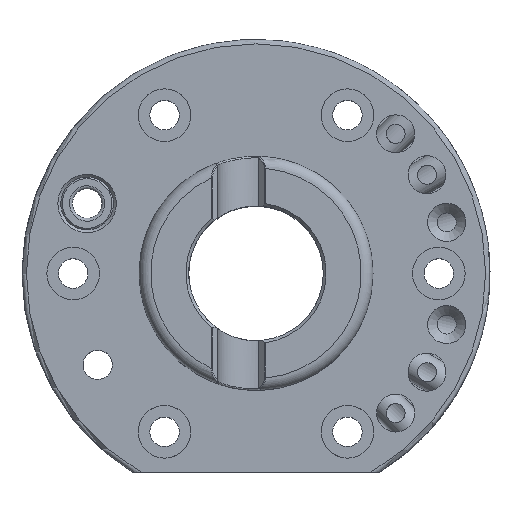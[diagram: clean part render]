
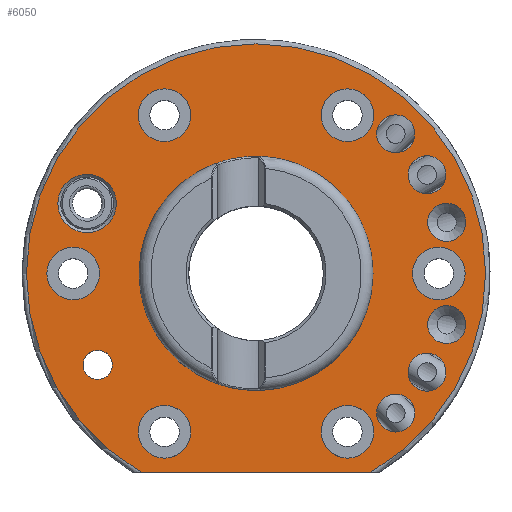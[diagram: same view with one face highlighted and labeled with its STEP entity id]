
A CAD part, top view. The second image highlights one B-rep face of the part: STEP entity #6050.
In plain terms, the highlighted planar face has unit normal (0, 0, 1).
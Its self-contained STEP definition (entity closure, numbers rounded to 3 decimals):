
#491=FACE_BOUND('',#1333,.T.);
#492=FACE_BOUND('',#1334,.T.);
#493=FACE_BOUND('',#1335,.T.);
#494=FACE_BOUND('',#1336,.T.);
#495=FACE_BOUND('',#1337,.T.);
#496=FACE_BOUND('',#1338,.T.);
#497=FACE_BOUND('',#1339,.T.);
#498=FACE_BOUND('',#1340,.T.);
#499=FACE_BOUND('',#1341,.T.);
#500=FACE_BOUND('',#1342,.T.);
#501=FACE_BOUND('',#1343,.T.);
#502=FACE_BOUND('',#1344,.T.);
#503=FACE_BOUND('',#1345,.T.);
#504=FACE_BOUND('',#1346,.T.);
#505=FACE_BOUND('',#1347,.T.);
#645=PLANE('',#6410);
#957=FACE_OUTER_BOUND('',#1332,.T.);
#1332=EDGE_LOOP('',(#5393,#5394));
#1333=EDGE_LOOP('',(#5395));
#1334=EDGE_LOOP('',(#5396));
#1335=EDGE_LOOP('',(#5397));
#1336=EDGE_LOOP('',(#5398));
#1337=EDGE_LOOP('',(#5399));
#1338=EDGE_LOOP('',(#5400));
#1339=EDGE_LOOP('',(#5401));
#1340=EDGE_LOOP('',(#5402));
#1341=EDGE_LOOP('',(#5403));
#1342=EDGE_LOOP('',(#5404));
#1343=EDGE_LOOP('',(#5405));
#1344=EDGE_LOOP('',(#5406));
#1345=EDGE_LOOP('',(#5407));
#1346=EDGE_LOOP('',(#5408));
#1347=EDGE_LOOP('',(#5409));
#1834=LINE('',#13374,#2291);
#2291=VECTOR('',#7527,10.);
#2334=CIRCLE('',#6269,78.5);
#2344=CIRCLE('',#6288,6.5);
#2349=CIRCLE('',#6299,6.5);
#2354=CIRCLE('',#6310,6.5);
#2359=CIRCLE('',#6321,6.5);
#2364=CIRCLE('',#6332,6.5);
#2368=CIRCLE('',#6341,6.5);
#2405=CIRCLE('',#6407,10.);
#2407=CIRCLE('',#6411,40.);
#2408=CIRCLE('',#6412,9.);
#2409=CIRCLE('',#6413,9.);
#2410=CIRCLE('',#6414,9.);
#2411=CIRCLE('',#6415,9.);
#2412=CIRCLE('',#6416,9.);
#2413=CIRCLE('',#6417,9.);
#2414=CIRCLE('',#6418,5.);
#2850=VERTEX_POINT('',#11414);
#2851=VERTEX_POINT('',#11427);
#2894=VERTEX_POINT('',#12851);
#2901=VERTEX_POINT('',#12911);
#2908=VERTEX_POINT('',#12971);
#2915=VERTEX_POINT('',#13031);
#2922=VERTEX_POINT('',#13091);
#2926=VERTEX_POINT('',#13107);
#2974=VERTEX_POINT('',#13366);
#2976=VERTEX_POINT('',#13375);
#2977=VERTEX_POINT('',#13377);
#2978=VERTEX_POINT('',#13379);
#2979=VERTEX_POINT('',#13381);
#2980=VERTEX_POINT('',#13383);
#2981=VERTEX_POINT('',#13385);
#2982=VERTEX_POINT('',#13387);
#2983=VERTEX_POINT('',#13389);
#3622=EDGE_CURVE('',#2850,#2851,#2334,.T.);
#3680=EDGE_CURVE('',#2894,#2894,#2344,.T.);
#3691=EDGE_CURVE('',#2901,#2901,#2349,.T.);
#3702=EDGE_CURVE('',#2908,#2908,#2354,.T.);
#3713=EDGE_CURVE('',#2915,#2915,#2359,.T.);
#3724=EDGE_CURVE('',#2922,#2922,#2364,.T.);
#3731=EDGE_CURVE('',#2926,#2926,#2368,.T.);
#3801=EDGE_CURVE('',#2974,#2974,#2405,.T.);
#3805=EDGE_CURVE('',#2850,#2851,#1834,.T.);
#3806=EDGE_CURVE('',#2976,#2976,#2407,.T.);
#3807=EDGE_CURVE('',#2977,#2977,#2408,.T.);
#3808=EDGE_CURVE('',#2978,#2978,#2409,.T.);
#3809=EDGE_CURVE('',#2979,#2979,#2410,.T.);
#3810=EDGE_CURVE('',#2980,#2980,#2411,.T.);
#3811=EDGE_CURVE('',#2981,#2981,#2412,.T.);
#3812=EDGE_CURVE('',#2982,#2982,#2413,.T.);
#3813=EDGE_CURVE('',#2983,#2983,#2414,.T.);
#5393=ORIENTED_EDGE('',*,*,#3805,.T.);
#5394=ORIENTED_EDGE('',*,*,#3622,.F.);
#5395=ORIENTED_EDGE('',*,*,#3680,.T.);
#5396=ORIENTED_EDGE('',*,*,#3691,.T.);
#5397=ORIENTED_EDGE('',*,*,#3702,.T.);
#5398=ORIENTED_EDGE('',*,*,#3713,.T.);
#5399=ORIENTED_EDGE('',*,*,#3724,.T.);
#5400=ORIENTED_EDGE('',*,*,#3731,.T.);
#5401=ORIENTED_EDGE('',*,*,#3806,.T.);
#5402=ORIENTED_EDGE('',*,*,#3807,.T.);
#5403=ORIENTED_EDGE('',*,*,#3808,.T.);
#5404=ORIENTED_EDGE('',*,*,#3809,.T.);
#5405=ORIENTED_EDGE('',*,*,#3810,.T.);
#5406=ORIENTED_EDGE('',*,*,#3811,.T.);
#5407=ORIENTED_EDGE('',*,*,#3812,.T.);
#5408=ORIENTED_EDGE('',*,*,#3813,.T.);
#5409=ORIENTED_EDGE('',*,*,#3801,.F.);
#6050=ADVANCED_FACE('',(#957,#491,#492,#493,#494,#495,#496,#497,#498,#499,
#500,#501,#502,#503,#504,#505),#645,.T.);
#6269=AXIS2_PLACEMENT_3D('',#11428,#7186,#7187);
#6288=AXIS2_PLACEMENT_3D('',#12852,#7233,#7234);
#6299=AXIS2_PLACEMENT_3D('',#12912,#7259,#7260);
#6310=AXIS2_PLACEMENT_3D('',#12972,#7285,#7286);
#6321=AXIS2_PLACEMENT_3D('',#13032,#7311,#7312);
#6332=AXIS2_PLACEMENT_3D('',#13092,#7337,#7338);
#6341=AXIS2_PLACEMENT_3D('',#13108,#7358,#7359);
#6407=AXIS2_PLACEMENT_3D('',#13367,#7517,#7518);
#6410=AXIS2_PLACEMENT_3D('',#13373,#7525,#7526);
#6411=AXIS2_PLACEMENT_3D('',#13376,#7528,#7529);
#6412=AXIS2_PLACEMENT_3D('',#13378,#7530,#7531);
#6413=AXIS2_PLACEMENT_3D('',#13380,#7532,#7533);
#6414=AXIS2_PLACEMENT_3D('',#13382,#7534,#7535);
#6415=AXIS2_PLACEMENT_3D('',#13384,#7536,#7537);
#6416=AXIS2_PLACEMENT_3D('',#13386,#7538,#7539);
#6417=AXIS2_PLACEMENT_3D('',#13388,#7540,#7541);
#6418=AXIS2_PLACEMENT_3D('',#13390,#7542,#7543);
#7186=DIRECTION('center_axis',(0.,0.,-1.));
#7187=DIRECTION('ref_axis',(1.,0.,0.));
#7233=DIRECTION('center_axis',(0.,0.,-1.));
#7234=DIRECTION('ref_axis',(0.866,0.5,0.));
#7259=DIRECTION('center_axis',(0.,0.,-1.));
#7260=DIRECTION('ref_axis',(0.966,0.259,0.));
#7285=DIRECTION('center_axis',(0.,0.,-1.));
#7286=DIRECTION('ref_axis',(1.,0.,0.));
#7311=DIRECTION('center_axis',(0.,0.,-1.));
#7312=DIRECTION('ref_axis',(0.866,-0.5,0.));
#7337=DIRECTION('center_axis',(0.,0.,-1.));
#7338=DIRECTION('ref_axis',(0.966,-0.259,0.));
#7358=DIRECTION('center_axis',(0.,0.,-1.));
#7359=DIRECTION('ref_axis',(1.,0.,0.));
#7517=DIRECTION('center_axis',(0.,0.,1.));
#7518=DIRECTION('ref_axis',(-1.,0.,0.));
#7525=DIRECTION('center_axis',(0.,0.,1.));
#7526=DIRECTION('ref_axis',(1.,0.,0.));
#7527=DIRECTION('',(1.,0.,0.));
#7528=DIRECTION('center_axis',(0.,0.,-1.));
#7529=DIRECTION('ref_axis',(1.,0.,0.));
#7530=DIRECTION('center_axis',(0.,0.,-1.));
#7531=DIRECTION('ref_axis',(1.,0.,0.));
#7532=DIRECTION('center_axis',(0.,0.,-1.));
#7533=DIRECTION('ref_axis',(0.5,0.866,0.));
#7534=DIRECTION('center_axis',(0.,0.,-1.));
#7535=DIRECTION('ref_axis',(-0.5,0.866,0.));
#7536=DIRECTION('center_axis',(0.,0.,-1.));
#7537=DIRECTION('ref_axis',(-1.,0.,0.));
#7538=DIRECTION('center_axis',(0.,0.,-1.));
#7539=DIRECTION('ref_axis',(-0.5,-0.866,0.));
#7540=DIRECTION('center_axis',(0.,0.,-1.));
#7541=DIRECTION('ref_axis',(0.5,-0.866,0.));
#7542=DIRECTION('center_axis',(0.,0.,-1.));
#7543=DIRECTION('ref_axis',(1.,0.,0.));
#11414=CARTESIAN_POINT('',(-39.221,-68.,28.));
#11427=CARTESIAN_POINT('',(39.221,-68.,28.));
#11428=CARTESIAN_POINT('Origin',(0.,0.,28.));
#12851=CARTESIAN_POINT('',(42.101,44.48,28.));
#12852=CARTESIAN_POINT('Origin',(47.73,47.73,28.));
#12911=CARTESIAN_POINT('',(52.178,32.068,28.));
#12912=CARTESIAN_POINT('Origin',(58.457,33.75,28.));
#12971=CARTESIAN_POINT('',(58.7,17.47,28.));
#12972=CARTESIAN_POINT('Origin',(65.2,17.47,28.));
#13031=CARTESIAN_POINT('',(42.101,-44.48,28.));
#13032=CARTESIAN_POINT('Origin',(47.73,-47.73,28.));
#13091=CARTESIAN_POINT('',(52.178,-32.068,28.));
#13092=CARTESIAN_POINT('Origin',(58.457,-33.75,28.));
#13107=CARTESIAN_POINT('',(58.7,-17.47,28.));
#13108=CARTESIAN_POINT('Origin',(65.2,-17.47,28.));
#13366=CARTESIAN_POINT('',(-47.742,23.918,28.));
#13367=CARTESIAN_POINT('Origin',(-57.742,23.918,28.));
#13373=CARTESIAN_POINT('Origin',(-78.5,0.,28.));
#13374=CARTESIAN_POINT('',(-60.321,-68.,28.));
#13375=CARTESIAN_POINT('',(40.,0.,28.));
#13376=CARTESIAN_POINT('Origin',(0.,0.,28.));
#13377=CARTESIAN_POINT('',(-71.5,0.,28.));
#13378=CARTESIAN_POINT('Origin',(-62.5,0.,28.));
#13379=CARTESIAN_POINT('',(-35.75,-61.921,28.));
#13380=CARTESIAN_POINT('Origin',(-31.25,-54.127,28.));
#13381=CARTESIAN_POINT('',(35.75,-61.921,28.));
#13382=CARTESIAN_POINT('Origin',(31.25,-54.127,28.));
#13383=CARTESIAN_POINT('',(71.5,0.,28.));
#13384=CARTESIAN_POINT('Origin',(62.5,0.,28.));
#13385=CARTESIAN_POINT('',(35.75,61.921,28.));
#13386=CARTESIAN_POINT('Origin',(31.25,54.127,28.));
#13387=CARTESIAN_POINT('',(-35.75,61.921,28.));
#13388=CARTESIAN_POINT('Origin',(-31.25,54.127,28.));
#13389=CARTESIAN_POINT('',(-59.127,-31.25,28.));
#13390=CARTESIAN_POINT('Origin',(-54.127,-31.25,28.));
